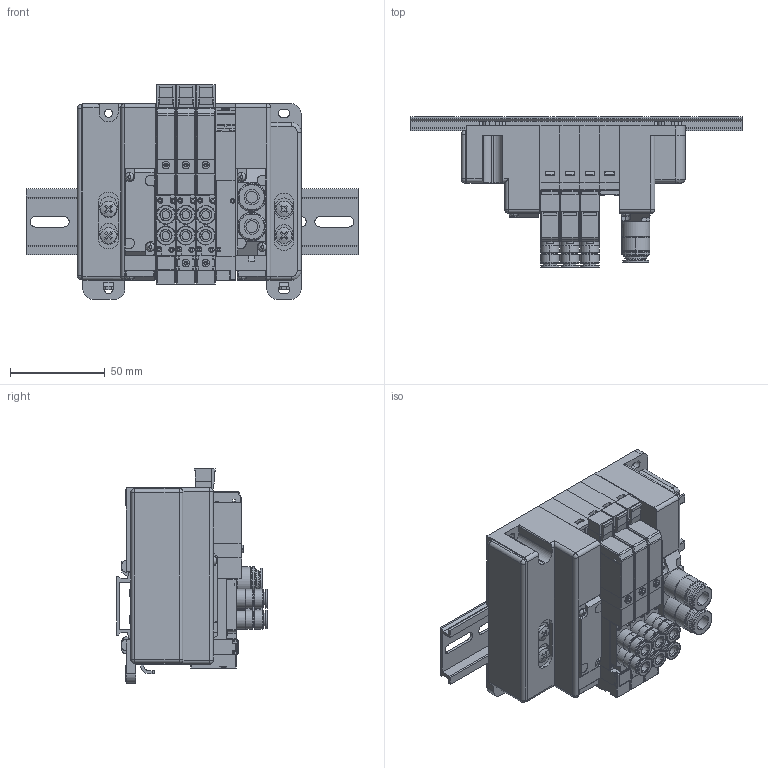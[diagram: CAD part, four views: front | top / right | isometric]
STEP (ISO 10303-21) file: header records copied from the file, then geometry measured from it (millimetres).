
FILE_DESCRIPTION( (''), '2;1');
FILE_NAME ('CVICAD02.9768.F10M4XN-JR-DN_10354.stp','2020-08-31T10:41:28',(''),(''),'spGate 12.6.6','','');
FILE_SCHEMA (('AUTOMOTIVE_DESIGN'));
Length unit declared in the file: millimetre
Products named in the file (18): Assembly; F10_EndCover; F10-PP; F10ZX_ValveBaseAssy; F10_VP; F10_Adptor; F_3PortBody; F10_Cap; F10_SwitchBlock1; F10T_Body; F_Connector-PS; F10_Port-FJ; F10_SwitchBlock; F10XBPP; F10ZX-LK-DN; F10ZX-RN-DN; DIN-RAIL175; F10_Port-PJ
Assembly tree (38 placements, depth 2):
  Assembly
    F10_EndCover
    F10-PP  x3
    F10ZX_ValveBaseAssy  x4
    F10_VP  x4
    F10_Adptor  x3
    F_3PortBody  x3
    F10_Cap  x3
    F10_SwitchBlock1
    F10T_Body  x3
    F_Connector-PS  x3
    F10_Port-FJ  x3
    F10_SwitchBlock  x2
    F10XBPP
    F10ZX-LK-DN
    F10ZX-RN-DN
    DIN-RAIL175
    F10_Port-PJ
Bounding box: 175 x 79.5 x 113 mm (x, y, z)
Volume: 360608.3 mm3; surface area: 157216.2 mm2
Topology: 37 solids, 38 shells, 3647 faces, 9876 edges, 6863 vertices
Faces by surface type: plane 2454, cylinder 903, bspline 268, sphere 22
Entity records: 95383 total; most frequent: CARTESIAN_POINT 12676, ORIENTED_EDGE 9601, DIRECTION 8685, COLOUR_RGB 6611, PRESENTATION_STYLE_ASSIGNMENT 6611, STYLED_ITEM 6611, EDGE_CURVE 4802, DRAUGHTING_PRE_DEFINED_CURVE_FONT 4802
